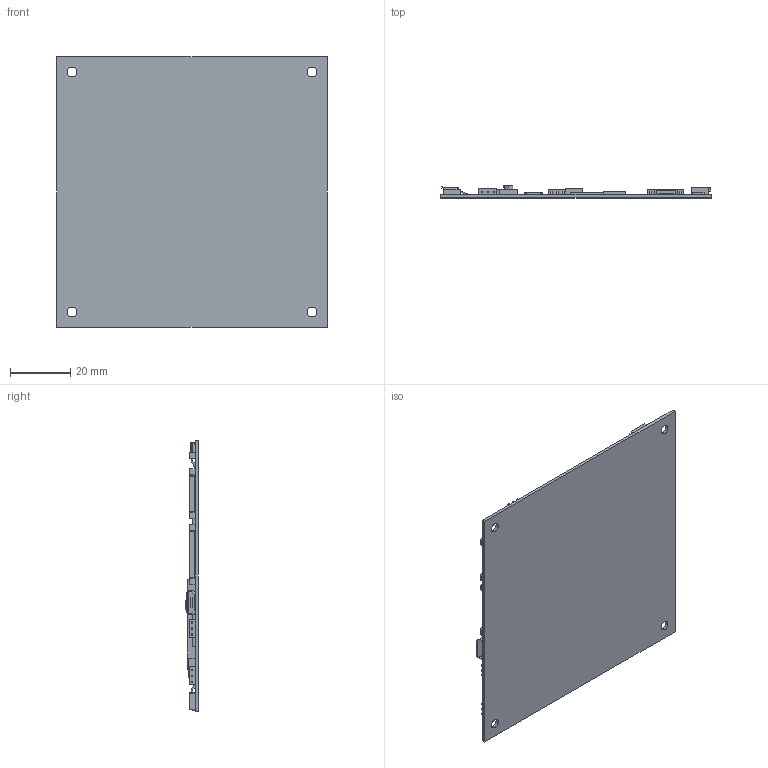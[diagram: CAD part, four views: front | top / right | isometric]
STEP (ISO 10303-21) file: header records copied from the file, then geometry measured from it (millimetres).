
FILE_DESCRIPTION (( 'STEP AP203' ), '1' );
FILE_NAME ('Assy PCB EPM-050C 416025610-3 240614.STEP', '2024-06-14T23:51:19', ( '' ), ( '' ), 'SwSTEP 2.0', 'SolidWorks 2023', '' );
FILE_SCHEMA (( 'CONFIG_CONTROL_DESIGN' ));
Length unit declared in the file: inch
Products named in the file (15): 196002460-3 SW Tach HCH STS-043-A; Assy PCB EPM-050C 416025610-3 240614; 210021606-3 Hdr RA 6P; 217403204-3 Conn 4P 1mm FPC-4WAY; 216062109-3 Hdr RA 9P TEZY; 210015239-3 Conn FXRH JST 39Way; 210066450-3 Conn Hdr RA 50P Hirose FH28-50S-0.5SH; 216062112-3 Hdr RA 12P TEZY; 216062106-3 Hdr RA 6P TEZY; PCB EPM-050C 6025601 240614; 212040520-3 Micro USB AB Type; 210021603-3 Hdr RA 3P; 190010405-3 DIP Switch 4P Horz; 210021605-3 Hdr RA 5P; 210066308-3 Conn Hdr RA 8P Hirose FH34SRJ-8S-0.5SH
Assembly tree (16 placements, depth 2):
  Assy PCB EPM-050C 416025610-3 240614
    PCB EPM-050C 6025601 240614
    210015239-3 Conn FXRH JST 39Way
    210021603-3 Hdr RA 3P  x3
    210021605-3 Hdr RA 5P
    210021606-3 Hdr RA 6P
    212040520-3 Micro USB AB Type
    216062106-3 Hdr RA 6P TEZY
    216062109-3 Hdr RA 9P TEZY
    216062112-3 Hdr RA 12P TEZY
    190010405-3 DIP Switch 4P Horz
    196002460-3 SW Tach HCH STS-043-A
    217403204-3 Conn 4P 1mm FPC-4WAY
    210066308-3 Conn Hdr RA 8P Hirose FH34SRJ-8S-0.5SH
    210066450-3 Conn Hdr RA 50P Hirose FH28-50S-0.5SH
Bounding box: 90 x 4.12 x 90 mm (x, y, z)
Volume: 9617.2 mm3; surface area: 19708.3 mm2
Topology: 16 solids, 16 shells, 786 faces, 1759 edges, 1062 vertices
Faces by surface type: plane 760, cylinder 26
Entity records: 18372 total; most frequent: CARTESIAN_POINT 2890, ORIENTED_EDGE 2798, DIRECTION 2727, EDGE_CURVE 1399, VECTOR 1345, LINE 1345, VERTEX_POINT 854, AXIS2_PLACEMENT_3D 691
